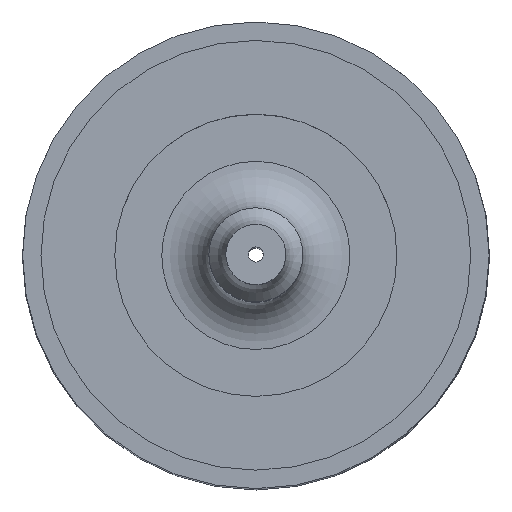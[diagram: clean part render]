
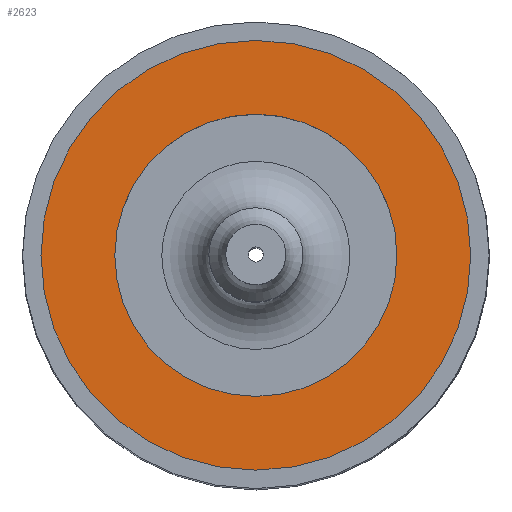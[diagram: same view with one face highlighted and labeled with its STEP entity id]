
A CAD part, top view. The second image highlights one B-rep face of the part: STEP entity #2623.
In plain terms, the highlighted planar face has unit normal (0, 0, 1).
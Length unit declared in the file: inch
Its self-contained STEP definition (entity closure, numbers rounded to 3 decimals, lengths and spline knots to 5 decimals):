
#2561=CARTESIAN_POINT('',(0.375,0.,0.25));
#2562=VERTEX_POINT('',#2561);
#2563=CARTESIAN_POINT('',(0.0,0.0,0.25));
#2564=DIRECTION('',(0.0,0.0,-1.0));
#2565=DIRECTION('',(-1.0,0.0,0.0));
#2566=AXIS2_PLACEMENT_3D('',#2563,#2564,#2565);
#2567=CIRCLE('',#2566,0.375);
#2568=EDGE_CURVE('',#2562,#2562,#2567,.T.);
#2589=CARTESIAN_POINT('',(0.571,0.,0.25));
#2590=VERTEX_POINT('',#2589);
#2591=CARTESIAN_POINT('',(0.0,0.0,0.25));
#2592=DIRECTION('',(0.0,0.0,1.0));
#2593=DIRECTION('',(-1.0,0.0,0.0));
#2594=AXIS2_PLACEMENT_3D('',#2591,#2592,#2593);
#2595=CIRCLE('',#2594,0.571);
#2596=EDGE_CURVE('',#2590,#2590,#2595,.T.);
#2612=CARTESIAN_POINT('',(0.,0.0,0.25));
#2613=DIRECTION('',(0.0,0.0,1.0));
#2614=DIRECTION('',(1.0,0.0,0.0));
#2615=AXIS2_PLACEMENT_3D('',#2612,#2613,#2614);
#2616=PLANE('',#2615);
#2617=ORIENTED_EDGE('',*,*,#2596,.T.);
#2618=EDGE_LOOP('',(#2617));
#2619=FACE_OUTER_BOUND('',#2618,.T.);
#2620=ORIENTED_EDGE('',*,*,#2568,.T.);
#2621=EDGE_LOOP('',(#2620));
#2622=FACE_BOUND('',#2621,.T.);
#2623=ADVANCED_FACE('',(#2619,#2622),#2616,.T.);
